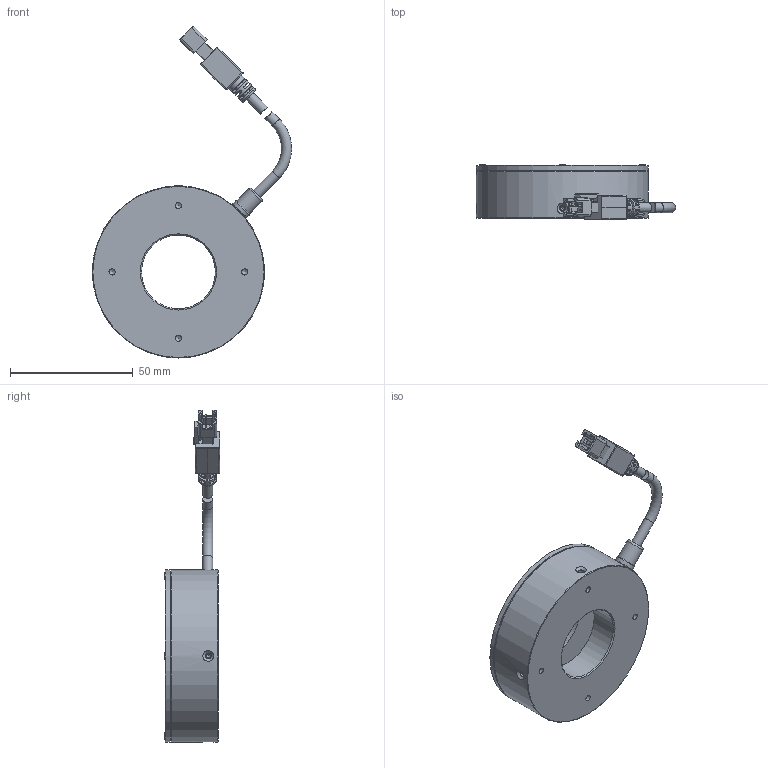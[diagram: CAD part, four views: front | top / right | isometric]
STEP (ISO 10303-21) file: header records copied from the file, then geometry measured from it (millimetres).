
FILE_DESCRIPTION (( 'STEP AP203' ), '1' );
FILE_NAME ('OPT-RI7000-X-V5.0U尨砩芞.STEP', '2024-12-12T07:04:20', ( '' ), ( '' ), 'SwSTEP 2.0', 'SolidWorks 2016', '' );
FILE_SCHEMA (( 'CONFIG_CONTROL_DESIGN' ));
Length unit declared in the file: millimetre
Products named in the file (1): OPT-RI7000-X-V5.0U尨砩芞
Bounding box: 81.02 x 22.7 x 135.04 mm (x, y, z)
Volume: 52209.8 mm3; surface area: 25394.2 mm2
Topology: 11 solids, 11 shells, 438 faces, 1099 edges, 698 vertices
Faces by surface type: plane 241, cylinder 130, cone 33, bspline 24, torus 10
Full cylindrical faces by diameter (mm): 1.1 x4, 1.4 x4, 1.6 x4, 1.7 x4, 2.4 x4, 2.5 x4, 2.6 x4, 3.5 x1, 4.1 x4, 5.8 x1, 7.5 x2, 8 x1, 30 x2, 61.8 x1, 70 x2
Entity records: 13630 total; most frequent: CARTESIAN_POINT 3698, DIRECTION 1976, ORIENTED_EDGE 1968, EDGE_CURVE 984, VERTEX_POINT 669, AXIS2_PLACEMENT_3D 669, VECTOR 638, LINE 638
